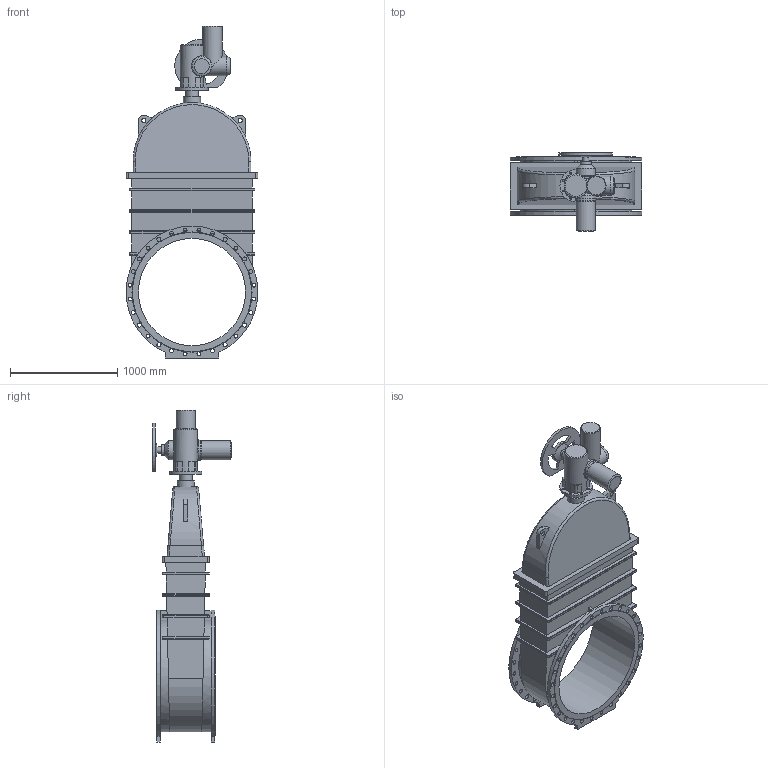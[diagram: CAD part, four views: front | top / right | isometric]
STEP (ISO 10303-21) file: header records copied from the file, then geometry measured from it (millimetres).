
FILE_DESCRIPTION(('STEP AP203'), '1');
FILE_NAME('青溻桄赅 47GVA.Z DN1000 PN10 +MT903.A100', '', ('UNSPECIFIED'), ('UNSPECIFIED'), 'ASCON STEP Converter 1.6', 'ASCON Math Kernel', '');
FILE_SCHEMA(('CONFIG_CONTROL_DESIGN'));
Length unit declared in the file: millimetre
Bounding box: 1230 x 733 x 3096 mm (x, y, z)
Volume: 609203983.3 mm3; surface area: 11533593.4 mm2
Topology: 2 solids, 2 shells, 375 faces, 958 edges, 614 vertices
Faces by surface type: cylinder 184, plane 147, bspline 32, cone 11, torus 1
Full cylindrical faces by diameter (mm): 17.5 x4, 18 x8, 20 x4, 37 x56, 40 x2, 50 x1, 60 x1, 100 x1, 120 x1, 130 x1, 140 x1, 160 x1, 180 x4, 187 x1, 191 x1, 200 x1, 220 x1, 300 x1, 1000 x1
Entity records: 18458 total; most frequent: CARTESIAN_POINT 6578, DIRECTION 1756, ORIENTED_EDGE 1710, EDGE_CURVE 855, AXIS2_PLACEMENT_3D 676, EDGE_LOOP 652, VERTEX_POINT 613, FACE_BOUND 458
